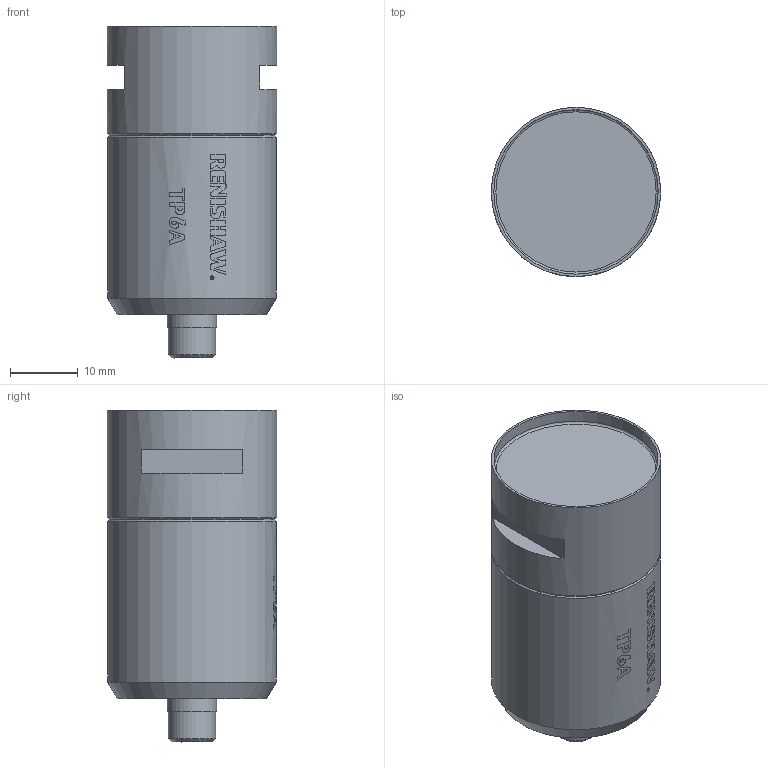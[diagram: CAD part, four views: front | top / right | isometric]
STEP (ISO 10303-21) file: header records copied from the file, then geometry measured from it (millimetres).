
FILE_DESCRIPTION(/* description */ (''),/* implementation_level */ '2;1');
FILE_NAME(/* name */ 'LA-1039-0034#-C.stp',/* time_stamp */ '2012-09-07T10:24:30+01:00',/* author */ (''),/* organization */ (''),/* preprocessor_version */ 'ST-DEVELOPER v11',/* originating_system */ 'SIEMENS PLM Software NX 7.5',/* authorisation */ '');
FILE_SCHEMA (('AUTOMOTIVE_DESIGN { 1 0 10303 214 1 1 1 1 }'));
Length unit declared in the file: millimetre
Products named in the file (1): rt13371Ayv4f
Bounding box: 25 x 25 x 49 mm (x, y, z)
Volume: 19509.5 mm3; surface area: 4794.4 mm2
Topology: 1 solids, 1 shells, 49 faces, 248 edges, 226 vertices
Faces by surface type: cylinder 27, plane 13, cone 7, torus 2
Full cylindrical faces by diameter (mm): 2.6 x1, 6.96 x1, 7.3 x1, 14 x1, 24.259 x1, 24.5 x1, 24.9 x1, 25 x1
Entity records: 3210 total; most frequent: CARTESIAN_POINT 1156, ORIENTED_EDGE 444, EDGE_CURVE 222, VERTEX_POINT 218, DIRECTION 188, B_SPLINE_CURVE_WITH_KNOTS 170, EDGE_LOOP 92, AXIS2_PLACEMENT_3D 86
